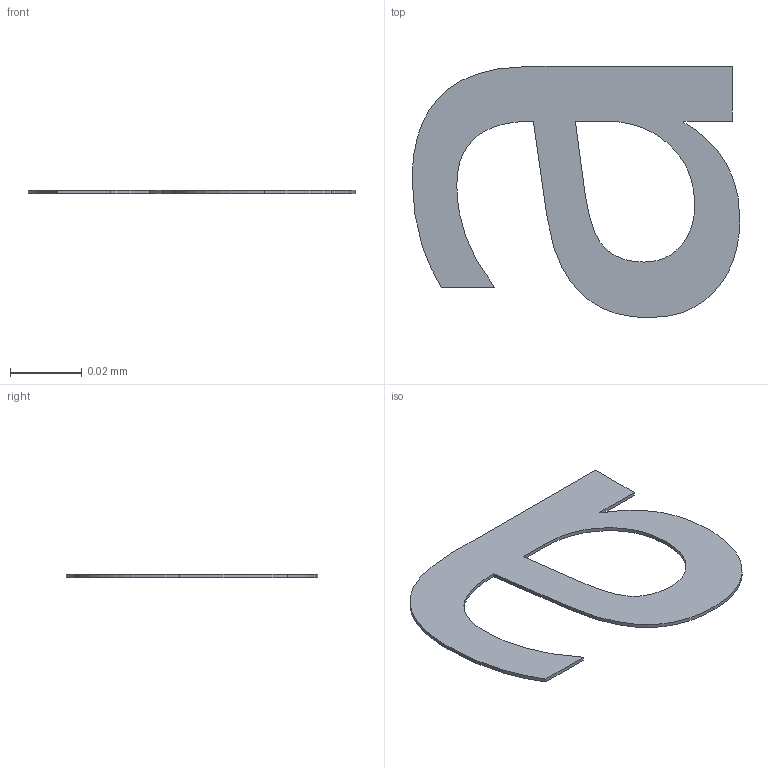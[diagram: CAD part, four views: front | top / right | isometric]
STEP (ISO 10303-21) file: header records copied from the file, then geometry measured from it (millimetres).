
FILE_DESCRIPTION(/* description */ ('STEP AP242 Edition 2','CAx-IF Rec.Pracs.---Representation and Presentation of Product Manufacturing Information (PMI)---4.0---2014-10-13','CAx-IF Rec.Pracs.---3D Tessellated Geometry---0.4---2014-09-14','2;1','CAx-IF Rec.Pracs.---User Defined Attributes---1.5---2016-08-15'),/* implementation_level */ '2;1');
FILE_NAME(/* name */ 'Assembly 1 - SOT-223_L6.5-W3.5-P2.30-LS7.0-BR~SOT-223-4P_L6.5-W3.5-H1.6-LS7.0-P2.30~nxQB (14)',/* time_stamp */ '2026-04-02T09:55:22Z',/* author */ (''),/* organization */ (''),/* preprocessor_version */ 'ST-DEVELOPER v20',/* originating_system */ 'ONSHAPE BY PTC INC, 1.212',/* authorisation */ ' ');
FILE_SCHEMA (('AP242_MANAGED_MODEL_BASED_3D_ENGINEERING_MIM_LF { 1 0 10303 442 3 1 4 }'));
Length unit declared in the file: metre
Products named in the file (1): SOT-223_L6.5-W3.5-P2.30-LS7.0-BR~SOT-223-4P_L6.5-W3.5-H1.6-LS7.0-P2.3
0~nxQB
Bounding box: 0.09 x 0.07 x 0 mm (x, y, z)
Volume: 0 mm3; surface area: 0 mm2
Topology: 1 solids, 1 shells, 24 faces, 66 edges, 44 vertices
Faces by surface type: bspline 14, plane 10
Entity records: 1029 total; most frequent: CARTESIAN_POINT 317, ORIENTED_EDGE 132, EDGE_CURVE 66, DIRECTION 60, VERTEX_POINT 44, LINE 38, VECTOR 38, B_SPLINE_CURVE_WITH_KNOTS 28
